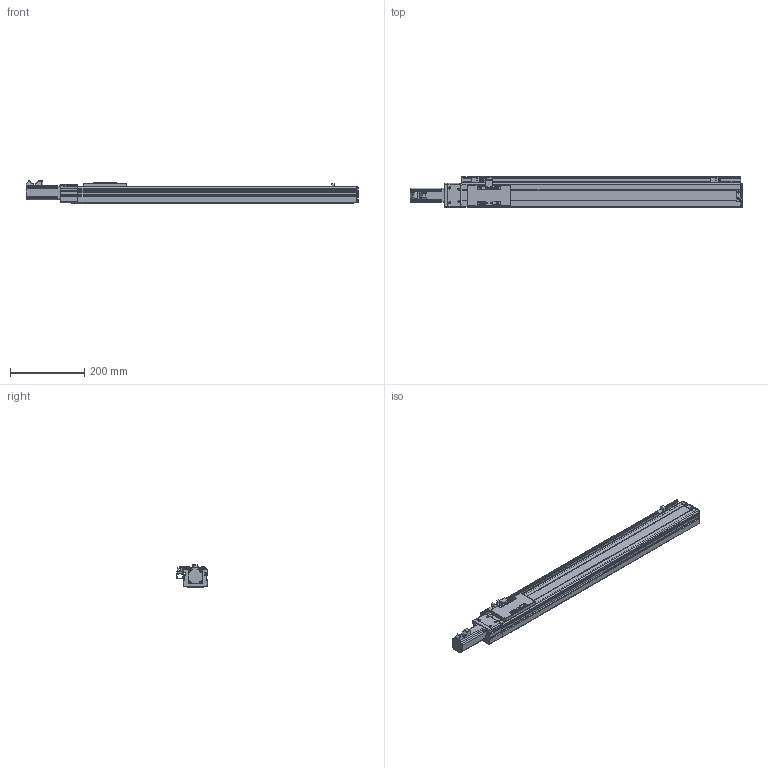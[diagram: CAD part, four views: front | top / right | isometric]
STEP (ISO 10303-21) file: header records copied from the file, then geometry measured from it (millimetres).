
FILE_DESCRIPTION (( 'STEP AP203' ), '1' );
FILE_NAME ('VT6-L10-C-S600-BC-P10-C4.STEP', '2015-10-26T06:00:05', ( '' ), ( '' ), 'SwSTEP 2.0', 'SolidWorks 2013', '' );
FILE_SCHEMA (( 'CONFIG_CONTROL_DESIGN' ));
Length unit declared in the file: millimetre
Products named in the file (15): 侂狟100W MSMD012G1U; ET6-BC佪裝_600; VT6-L10-C-S600-BC-P10-C4; T6-BCヶ傷裔; T6-BCヶ傷裔揤啣; ET6-BC滅鳥湍_600; ET6-BC絳寢_俴最600; EE-XS674; T6-綴傷裔; T6-揤輸; T6-裔啣; T6-賑雄殤; T6-覜茼え; ET6-BC癹弇羲壽羞_600; ET6-BC耜啣_600
Assembly tree (17 placements, depth 2):
  VT6-L10-C-S600-BC-P10-C4
    ET6-BC耜啣_600  x2
    ET6-BC癹弇羲壽羞_600
    T6-賑雄殤
    T6-裔啣
    T6-揤輸
    T6-覜茼え
    T6-綴傷裔
    EE-XS674  x3
    ET6-BC絳寢_俴最600
    ET6-BC滅鳥湍_600
    T6-BCヶ傷裔揤啣
    T6-BCヶ傷裔
    侂狟100W MSMD012G1U
    ET6-BC佪裝_600
Bounding box: 894 x 83 x 61 mm (x, y, z)
Volume: 978293.1 mm3; surface area: 573927.7 mm2
Topology: 17 solids, 17 shells, 904 faces, 2397 edges, 1516 vertices
Faces by surface type: cylinder 424, plane 378, cone 56, torus 28, sphere 18
Entity records: 27846 total; most frequent: CARTESIAN_POINT 4825, DIRECTION 4661, ORIENTED_EDGE 4320, EDGE_CURVE 2160, AXIS2_PLACEMENT_3D 1704, VERTEX_POINT 1376, LINE 1253, VECTOR 1253
